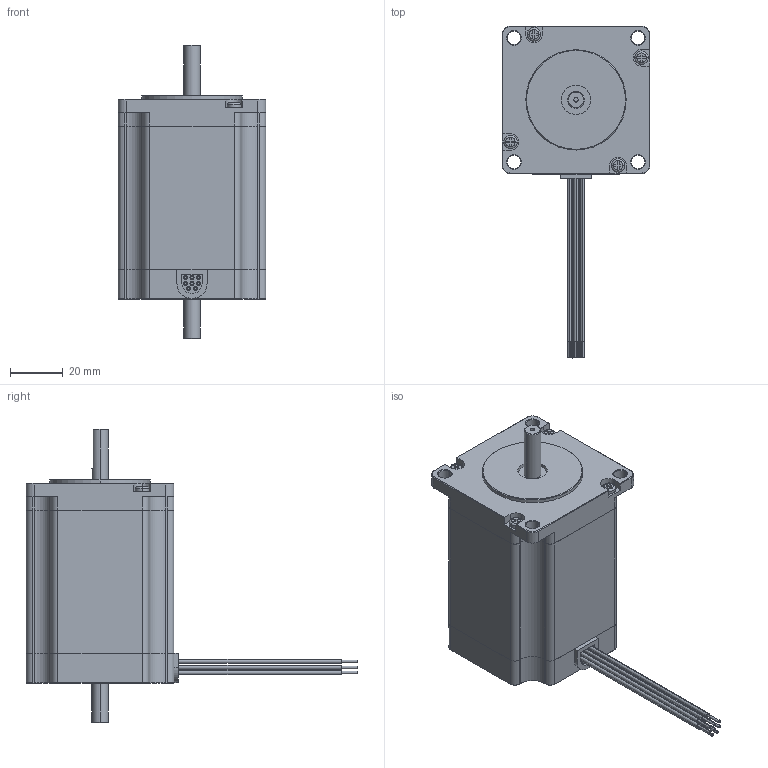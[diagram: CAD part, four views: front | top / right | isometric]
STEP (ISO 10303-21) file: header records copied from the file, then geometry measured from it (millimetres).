
FILE_DESCRIPTION (( 'STEP AP214' ), '1' );
FILE_NAME ('23Y202D-LW8.STEP', '2010-06-11T15:23:59', ( 'Tim Raines' ), ( 'Anaheim Automation' ), 'SwSTEP 2.0', 'SolidWorks 2010', '' );
FILE_SCHEMA (( 'AUTOMOTIVE_DESIGN' ));
Length unit declared in the file: inch
Products named in the file (1): 23Y202D-LW8
Bounding box: 56.13 x 125.98 x 111.56 mm (x, y, z)
Volume: 217641.9 mm3; surface area: 26432 mm2
Topology: 1 solids, 1 shells, 348 faces, 858 edges, 540 vertices
Faces by surface type: plane 164, cylinder 121, cone 55, torus 8
Entity records: 14746 total; most frequent: DIRECTION 1845, CARTESIAN_POINT 1741, ORIENTED_EDGE 1692, EDGE_CURVE 846, AXIS2_PLACEMENT_3D 652, VECTOR 541, LINE 541, VERTEX_POINT 540
